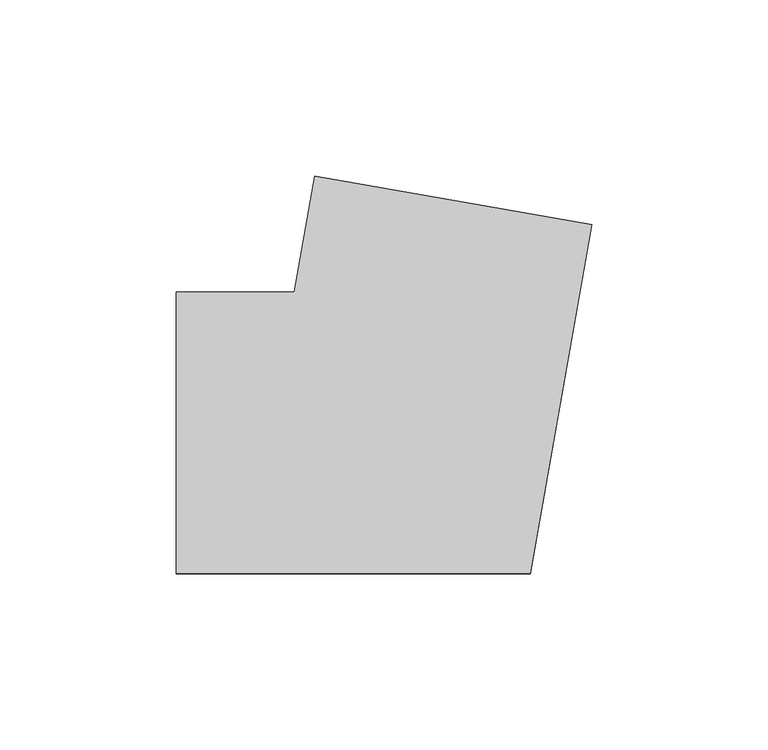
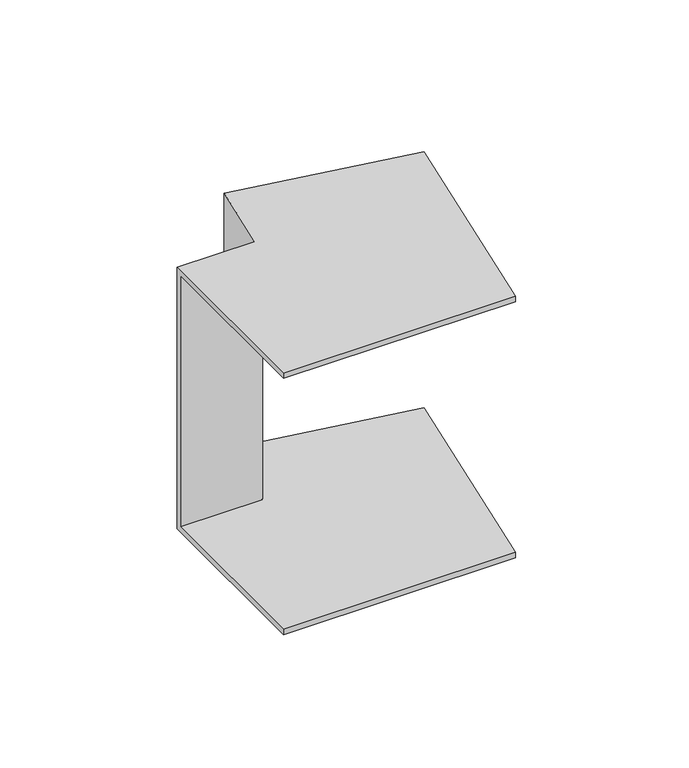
"""IFC4 building model written with IfcOpenShell, lengths in millimetres: cable carrier fitting geometry, КНС_УголВнешний_ILC_DKC : Угол внешний_DKC."""

from ifc_helpers import new_model, si_unit, origin, place, context, project, spatial, faceted_brep, source, transform, mapped, element, save


def cable_carrier_fitting_fe56e331(model_context):
    return source(origin(), model_context, "Body", "Brep", [
        faceted_brep([(-67.1279705, 40.0, 60.0), (-67.1279705, 40.0, -60.0), (-67.1279705, -40.0, -60.0), (-67.1279705, -40.0, -57.5), (-67.1279705, 37.5, -57.5), (-67.1279705, 37.5, 57.5), (-67.1279705, -40.0, 57.5), (-67.1279705, -40.0, 60.0), (-27.7356604, 73.0540729, 60.0), (51.0489599, 59.1622187, 60.0), (51.0489599, 59.1622187, 57.5), (-25.273641, 72.6199524, 57.5), (-25.273641, 72.6199524, -57.5), (51.0489599, 59.1622187, -57.5), (51.0489599, 59.1622187, -60.0), (-27.7356604, 73.0540729, -60.0), (-33.5639852, 40.0, 60.0), (-33.5639852, 40.0, -60.0), (33.5639852, -40.0, -60.0), (33.5639852, -40.0, -57.5), (-31.4662362, 37.5, -57.5), (-31.4662362, 37.5, 57.5), (33.5639852, -40.0, 57.5), (33.5639852, -40.0, 60.0)], [[[0, 1, 2, 3, 4, 5, 6, 7]], [[8, 9, 10, 11, 12, 13, 14, 15]], [[1, 0, 16, 17]], [[2, 1, 17, 15, 14, 18]], [[3, 2, 18, 19]], [[4, 3, 19, 13, 12, 20]], [[5, 4, 20, 21]], [[6, 5, 21, 11, 10, 22]], [[7, 6, 22, 23]], [[0, 7, 23, 9, 8, 16]], [[17, 16, 8, 15]], [[19, 18, 14, 13]], [[21, 20, 12, 11]], [[23, 22, 10, 9]]]),
    ])


if __name__ == "__main__":
    model = new_model("IFC4")
    model_context = context("Model", 3, world=origin())
    ifc_project = project(units=[si_unit("LENGTHUNIT", "METRE", prefix="MILLI")], contexts=[model_context])
    site = spatial("IfcSite", under=ifc_project)
    building = spatial("IfcBuilding", under=site)
    placement = place(None, origin())
    cable_carrier_fitting_shape = cable_carrier_fitting_fe56e331(model_context)
    element("IfcCableCarrierFitting", 1, ObjectType="КНС_УголВнешний_ILC_DKC : Угол внешний_DKC", at=placement, inside=building, context=model_context, shape_type="MappedRepresentation", body=[
        mapped(cable_carrier_fitting_shape, transform((0.0, 0.0, 0.0), x_axis=(1.0, 0.0, 0.0), y_axis=(0.0, 1.0, 0.0), z_axis=(0.0, 0.0, 1.0))),
    ])
    save(model, "model.ifc")
